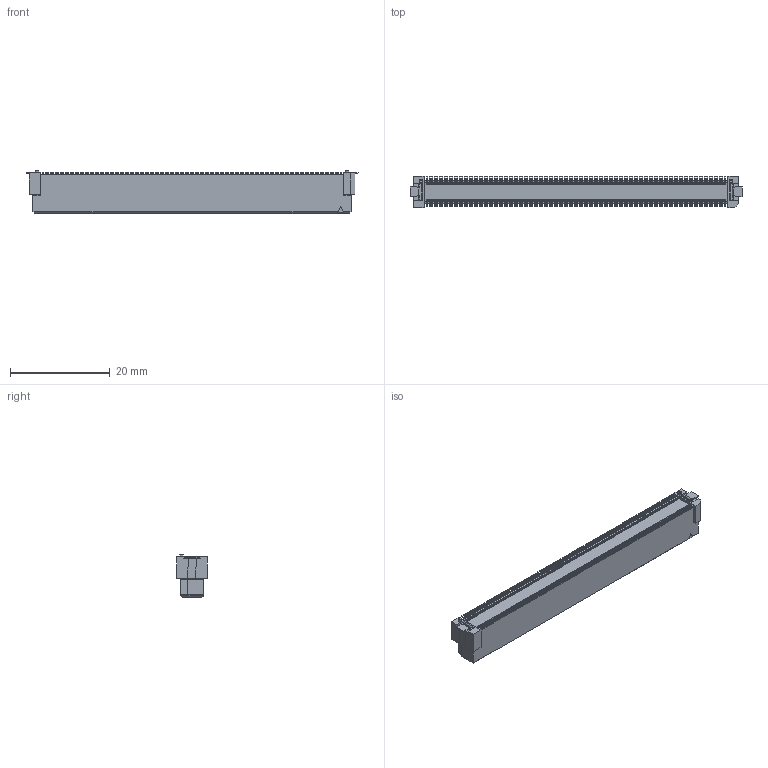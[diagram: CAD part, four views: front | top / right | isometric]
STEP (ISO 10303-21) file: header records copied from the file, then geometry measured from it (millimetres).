
FILE_DESCRIPTION(('Creo Elements/Direct Modeling STEP Export'),'2;1');
FILE_NAME('P3D070_DT11-240S-10-TR-T.stp','2017-08-11T10:55:38',(''),(''),'Creo Elements/Direct Modeling STEP processor for AP214 (Solid Model)','Creo Elements/Direct Modeling 19.0F 14-Feb-2017 (C) Parametric Technology GmbH','');
FILE_SCHEMA(('AUTOMOTIVE_DESIGN { 1 0 10303 214 1 1 1 1 }'));
Products named in the file (2): DT11-240S-10-TR-T
Assembly tree (1 placements, depth 2):
  DT11-240S-10-TR-T
    DT11-240S-10-TR-T
Bounding box: 66.4 x 6.2 x 8.63 mm (x, y, z)
Volume: 2062.3 mm3; surface area: 3645.3 mm2
Topology: 1 solids, 1 shells, 8301 faces, 23458 edges, 15644 vertices
Faces by surface type: plane 7081, cylinder 1216, cone 4
Entity records: 262697 total; most frequent: ORIENTED_EDGE 46916, CARTESIAN_POINT 46680, DIRECTION 42011, EDGE_CURVE 23458, VECTOR 20061, LINE 20061, VERTEX_POINT 15644, AXIS2_PLACEMENT_3D 10975
